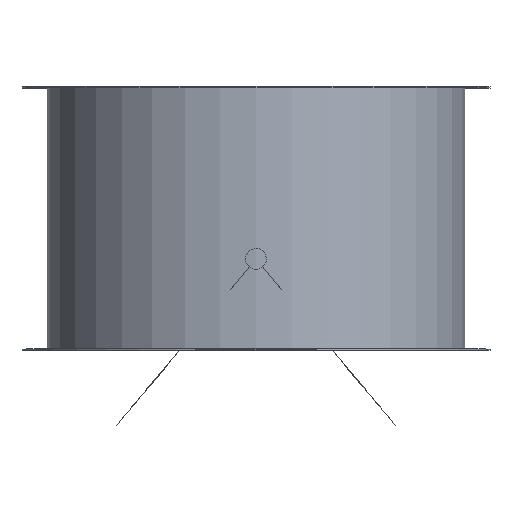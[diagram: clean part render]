
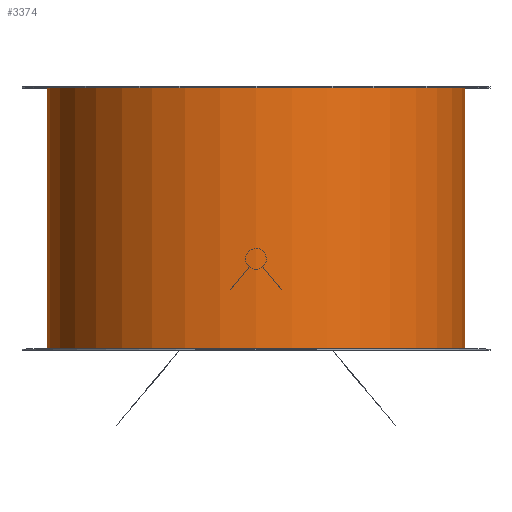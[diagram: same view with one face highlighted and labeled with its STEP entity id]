
A CAD part, top view. The second image highlights one B-rep face of the part: STEP entity #3374.
In plain terms, the highlighted cylindrical face has radius 317 mm (diameter 634 mm), a full revolution.
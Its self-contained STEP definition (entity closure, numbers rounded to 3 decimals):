
#130=CYLINDRICAL_SURFACE('',#3654,317.);
#219=CIRCLE('',#3655,317.);
#220=CIRCLE('',#3656,317.);
#392=FACE_OUTER_BOUND('',#552,.T.);
#552=EDGE_LOOP('',(#3005,#3006,#3007,#3008));
#990=LINE('',#5636,#1356);
#1356=VECTOR('',#4542,315.);
#1653=VERTEX_POINT('',#5633);
#1654=VERTEX_POINT('',#5635);
#2132=EDGE_CURVE('',#1653,#1653,#219,.T.);
#2133=EDGE_CURVE('',#1653,#1654,#990,.T.);
#2134=EDGE_CURVE('',#1654,#1654,#220,.F.);
#3005=ORIENTED_EDGE('',*,*,#2132,.T.);
#3006=ORIENTED_EDGE('',*,*,#2133,.T.);
#3007=ORIENTED_EDGE('',*,*,#2134,.T.);
#3008=ORIENTED_EDGE('',*,*,#2133,.F.);
#3374=ADVANCED_FACE('',(#392),#130,.T.);
#3654=AXIS2_PLACEMENT_3D('',#5632,#4538,#4539);
#3655=AXIS2_PLACEMENT_3D('',#5634,#4540,#4541);
#3656=AXIS2_PLACEMENT_3D('',#5637,#4543,#4544);
#4538=DIRECTION('center_axis',(0.,1.,0.));
#4539=DIRECTION('ref_axis',(1.,0.,0.));
#4540=DIRECTION('center_axis',(0.,-1.,0.));
#4541=DIRECTION('ref_axis',(1.,0.,0.));
#4542=DIRECTION('',(0.,-1.,0.));
#4543=DIRECTION('center_axis',(0.,-1.,0.));
#4544=DIRECTION('ref_axis',(1.,0.,0.));
#5632=CARTESIAN_POINT('Origin',(0.,0.,0.));
#5633=CARTESIAN_POINT('',(-317.,198.,0.));
#5634=CARTESIAN_POINT('Origin',(0.,198.,0.));
#5635=CARTESIAN_POINT('',(-317.,-198.,0.));
#5636=CARTESIAN_POINT('',(-317.,0.,0.));
#5637=CARTESIAN_POINT('Origin',(0.,-198.,0.));
